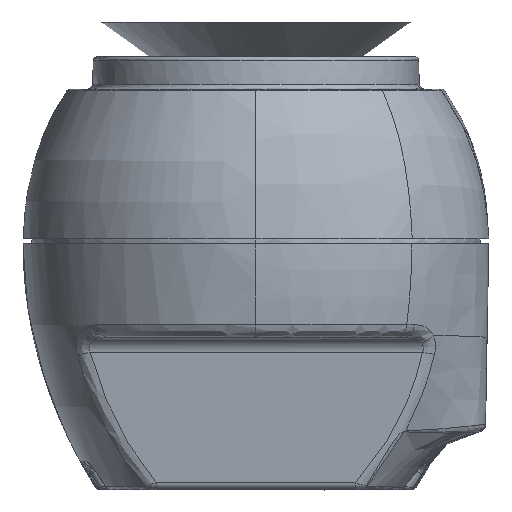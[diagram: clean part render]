
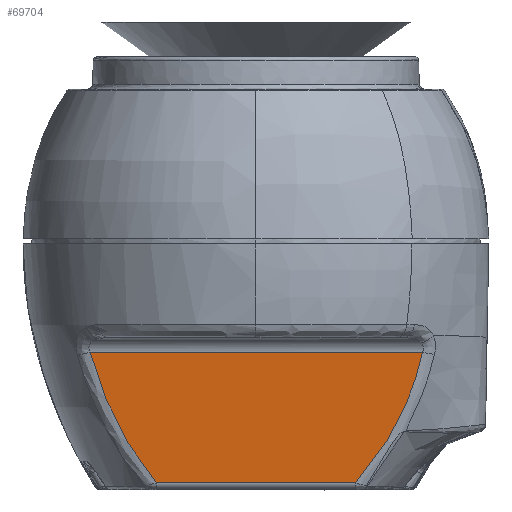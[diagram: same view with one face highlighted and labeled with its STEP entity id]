
A CAD part, left-side view. The second image highlights one B-rep face of the part: STEP entity #69704.
In plain terms, the highlighted planar face has unit normal (-0.996, 0, -0.087).
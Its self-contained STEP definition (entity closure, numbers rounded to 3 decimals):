
#2164=PLANE('',#75229);
#8448=FACE_OUTER_BOUND('',#12089,.T.);
#12089=EDGE_LOOP('',(#61188,#61189,#61190,#61191));
#18187=LINE('',#185154,#23967);
#18188=LINE('',#185158,#23968);
#23967=VECTOR('',#91822,12.429);
#23968=VECTOR('',#91827,20.716);
#25514=B_SPLINE_CURVE_WITH_KNOTS('',3,(#184148,#184149,#184150,#184151,
#184152,#184153,#184154,#184155,#184156,#184157,#184158,#184159,#184160,
#184161,#184162,#184163,#184164,#184165,#184166,#184167,#184168,#184169,
#184170,#184171,#184172,#184173,#184174,#184175,#184176,#184177,#184178,
#184179,#184180,#184181,#184182,#184183,#184184,#184185,#184186,#184187,
#184188,#184189,#184190,#184191,#184192,#184193,#184194,#184195,#184196,
#184197,#184198,#184199,#184200,#184201,#184202,#184203,#184204,#184205),
 .UNSPECIFIED.,.F.,.F.,(4,3,3,3,3,3,3,3,3,3,3,3,3,3,3,3,3,3,3,4),(0.,0.024,
0.074,0.128,0.189,0.257,
0.333,0.333,0.391,0.419,0.472,
0.515,0.568,0.622,0.667,0.738,
0.811,0.864,0.938,1.),
 .UNSPECIFIED.);
#25526=B_SPLINE_CURVE_WITH_KNOTS('',3,(#185159,#185160,#185161,#185162,
#185163,#185164,#185165,#185166,#185167,#185168,#185169,#185170,#185171,
#185172,#185173,#185174,#185175,#185176,#185177,#185178,#185179,#185180),
 .UNSPECIFIED.,.F.,.F.,(4,3,3,3,3,3,3,4),(0.,0.094,0.245,
0.416,0.588,0.744,0.881,
1.),.UNSPECIFIED.);
#31769=VERTEX_POINT('',#183901);
#31771=VERTEX_POINT('',#184147);
#31789=VERTEX_POINT('',#185153);
#31790=VERTEX_POINT('',#185157);
#41583=EDGE_CURVE('',#31771,#31769,#25514,.T.);
#41627=EDGE_CURVE('',#31789,#31771,#18187,.T.);
#41629=EDGE_CURVE('',#31769,#31790,#18188,.T.);
#41630=EDGE_CURVE('',#31789,#31790,#25526,.T.);
#61188=ORIENTED_EDGE('',*,*,#41583,.T.);
#61189=ORIENTED_EDGE('',*,*,#41629,.T.);
#61190=ORIENTED_EDGE('',*,*,#41630,.F.);
#61191=ORIENTED_EDGE('',*,*,#41627,.T.);
#69704=ADVANCED_FACE('',(#8448),#2164,.F.);
#75229=AXIS2_PLACEMENT_3D('',#185156,#91825,#91826);
#91822=DIRECTION('',(0.,-1.,0.));
#91825=DIRECTION('center_axis',(0.996,0.,
0.087));
#91826=DIRECTION('ref_axis',(0.087,0.,-0.996));
#91827=DIRECTION('',(0.,1.,0.));
#183901=CARTESIAN_POINT('',(-55.761,-10.387,-18.413));
#184147=CARTESIAN_POINT('',(-55.05,-6.217,-26.544));
#184148=CARTESIAN_POINT('Ctrl Pts',(-55.05,-6.217,
-26.544));
#184149=CARTESIAN_POINT('Ctrl Pts',(-55.055,-6.271,
-26.48));
#184150=CARTESIAN_POINT('Ctrl Pts',(-55.061,-6.326,
-26.417));
#184151=CARTESIAN_POINT('Ctrl Pts',(-55.067,-6.38,
-26.354));
#184152=CARTESIAN_POINT('Ctrl Pts',(-55.078,-6.492,
-26.222));
#184153=CARTESIAN_POINT('Ctrl Pts',(-55.09,-6.602,
-26.091));
#184154=CARTESIAN_POINT('Ctrl Pts',(-55.101,-6.709,
-25.96));
#184155=CARTESIAN_POINT('Ctrl Pts',(-55.114,-6.827,
-25.815));
#184156=CARTESIAN_POINT('Ctrl Pts',(-55.126,-6.943,
-25.67));
#184157=CARTESIAN_POINT('Ctrl Pts',(-55.139,-7.056,
-25.525));
#184158=CARTESIAN_POINT('Ctrl Pts',(-55.153,-7.18,
-25.365));
#184159=CARTESIAN_POINT('Ctrl Pts',(-55.167,-7.301,
-25.204));
#184160=CARTESIAN_POINT('Ctrl Pts',(-55.181,-7.418,
-25.044));
#184161=CARTESIAN_POINT('Ctrl Pts',(-55.197,-7.549,
-24.866));
#184162=CARTESIAN_POINT('Ctrl Pts',(-55.212,-7.674,
-24.688));
#184163=CARTESIAN_POINT('Ctrl Pts',(-55.228,-7.794,
-24.511));
#184164=CARTESIAN_POINT('Ctrl Pts',(-55.245,-7.929,
-24.312));
#184165=CARTESIAN_POINT('Ctrl Pts',(-55.262,-8.058,
-24.114));
#184166=CARTESIAN_POINT('Ctrl Pts',(-55.28,-8.181,
-23.919));
#184167=CARTESIAN_POINT('Ctrl Pts',(-55.28,-8.182,
-23.918));
#184168=CARTESIAN_POINT('Ctrl Pts',(-55.28,-8.183,
-23.917));
#184169=CARTESIAN_POINT('Ctrl Pts',(-55.28,-8.183,
-23.915));
#184170=CARTESIAN_POINT('Ctrl Pts',(-55.293,-8.276,
-23.768));
#184171=CARTESIAN_POINT('Ctrl Pts',(-55.306,-8.365,
-23.621));
#184172=CARTESIAN_POINT('Ctrl Pts',(-55.318,-8.45,
-23.475));
#184173=CARTESIAN_POINT('Ctrl Pts',(-55.325,-8.492,
-23.403));
#184174=CARTESIAN_POINT('Ctrl Pts',(-55.331,-8.534,
-23.331));
#184175=CARTESIAN_POINT('Ctrl Pts',(-55.337,-8.574,
-23.259));
#184176=CARTESIAN_POINT('Ctrl Pts',(-55.349,-8.65,
-23.123));
#184177=CARTESIAN_POINT('Ctrl Pts',(-55.361,-8.724,
-22.988));
#184178=CARTESIAN_POINT('Ctrl Pts',(-55.373,-8.795,
-22.852));
#184179=CARTESIAN_POINT('Ctrl Pts',(-55.383,-8.853,
-22.741));
#184180=CARTESIAN_POINT('Ctrl Pts',(-55.392,-8.91,
-22.63));
#184181=CARTESIAN_POINT('Ctrl Pts',(-55.402,-8.965,
-22.519));
#184182=CARTESIAN_POINT('Ctrl Pts',(-55.414,-9.033,
-22.381));
#184183=CARTESIAN_POINT('Ctrl Pts',(-55.426,-9.098,
-22.243));
#184184=CARTESIAN_POINT('Ctrl Pts',(-55.438,-9.162,
-22.104));
#184185=CARTESIAN_POINT('Ctrl Pts',(-55.451,-9.226,
-21.965));
#184186=CARTESIAN_POINT('Ctrl Pts',(-55.463,-9.288,
-21.824));
#184187=CARTESIAN_POINT('Ctrl Pts',(-55.475,-9.348,
-21.682));
#184188=CARTESIAN_POINT('Ctrl Pts',(-55.486,-9.399,
-21.563));
#184189=CARTESIAN_POINT('Ctrl Pts',(-55.496,-9.448,
-21.443));
#184190=CARTESIAN_POINT('Ctrl Pts',(-55.507,-9.497,
-21.321));
#184191=CARTESIAN_POINT('Ctrl Pts',(-55.524,-9.574,
-21.127));
#184192=CARTESIAN_POINT('Ctrl Pts',(-55.541,-9.649,
-20.929));
#184193=CARTESIAN_POINT('Ctrl Pts',(-55.559,-9.72,
-20.729));
#184194=CARTESIAN_POINT('Ctrl Pts',(-55.576,-9.793,
-20.525));
#184195=CARTESIAN_POINT('Ctrl Pts',(-55.595,-9.863,
-20.318));
#184196=CARTESIAN_POINT('Ctrl Pts',(-55.613,-9.93,
-20.109));
#184197=CARTESIAN_POINT('Ctrl Pts',(-55.626,-9.979,
-19.955));
#184198=CARTESIAN_POINT('Ctrl Pts',(-55.64,-10.027,
-19.8));
#184199=CARTESIAN_POINT('Ctrl Pts',(-55.654,-10.073,
-19.643));
#184200=CARTESIAN_POINT('Ctrl Pts',(-55.673,-10.137,
-19.423));
#184201=CARTESIAN_POINT('Ctrl Pts',(-55.692,-10.197,
-19.201));
#184202=CARTESIAN_POINT('Ctrl Pts',(-55.712,-10.254,
-18.976));
#184203=CARTESIAN_POINT('Ctrl Pts',(-55.728,-10.301,
-18.79));
#184204=CARTESIAN_POINT('Ctrl Pts',(-55.745,-10.346,
-18.602));
#184205=CARTESIAN_POINT('Ctrl Pts',(-55.761,-10.387,
-18.413));
#185153=CARTESIAN_POINT('',(-55.05,6.213,-26.544));
#185154=CARTESIAN_POINT('',(-55.05,6.213,-26.544));
#185156=CARTESIAN_POINT('Origin',(-55.469,0.008,-21.75));
#185157=CARTESIAN_POINT('',(-55.761,10.329,-18.413));
#185158=CARTESIAN_POINT('',(-55.761,-10.387,-18.413));
#185159=CARTESIAN_POINT('Ctrl Pts',(-55.05,6.213,
-26.544));
#185160=CARTESIAN_POINT('Ctrl Pts',(-55.069,6.398,
-26.325));
#185161=CARTESIAN_POINT('Ctrl Pts',(-55.089,6.577,
-26.102));
#185162=CARTESIAN_POINT('Ctrl Pts',(-55.108,6.751,
-25.875));
#185163=CARTESIAN_POINT('Ctrl Pts',(-55.141,7.033,
-25.506));
#185164=CARTESIAN_POINT('Ctrl Pts',(-55.174,7.301,
-25.127));
#185165=CARTESIAN_POINT('Ctrl Pts',(-55.208,7.554,
-24.738));
#185166=CARTESIAN_POINT('Ctrl Pts',(-55.246,7.84,
-24.3));
#185167=CARTESIAN_POINT('Ctrl Pts',(-55.286,8.108,-23.849));
#185168=CARTESIAN_POINT('Ctrl Pts',(-55.326,8.359,
-23.39));
#185169=CARTESIAN_POINT('Ctrl Pts',(-55.366,8.612,
-22.927));
#185170=CARTESIAN_POINT('Ctrl Pts',(-55.408,8.847,
-22.454));
#185171=CARTESIAN_POINT('Ctrl Pts',(-55.45,9.065,
-21.974));
#185172=CARTESIAN_POINT('Ctrl Pts',(-55.488,9.262,
-21.541));
#185173=CARTESIAN_POINT('Ctrl Pts',(-55.526,9.444,-21.101));
#185174=CARTESIAN_POINT('Ctrl Pts',(-55.565,9.613,
-20.655));
#185175=CARTESIAN_POINT('Ctrl Pts',(-55.6,9.761,-20.262));
#185176=CARTESIAN_POINT('Ctrl Pts',(-55.634,9.899,
-19.864));
#185177=CARTESIAN_POINT('Ctrl Pts',(-55.669,10.026,
-19.463));
#185178=CARTESIAN_POINT('Ctrl Pts',(-55.7,10.135,
-19.116));
#185179=CARTESIAN_POINT('Ctrl Pts',(-55.73,10.236,
-18.765));
#185180=CARTESIAN_POINT('Ctrl Pts',(-55.761,10.329,
-18.413));
